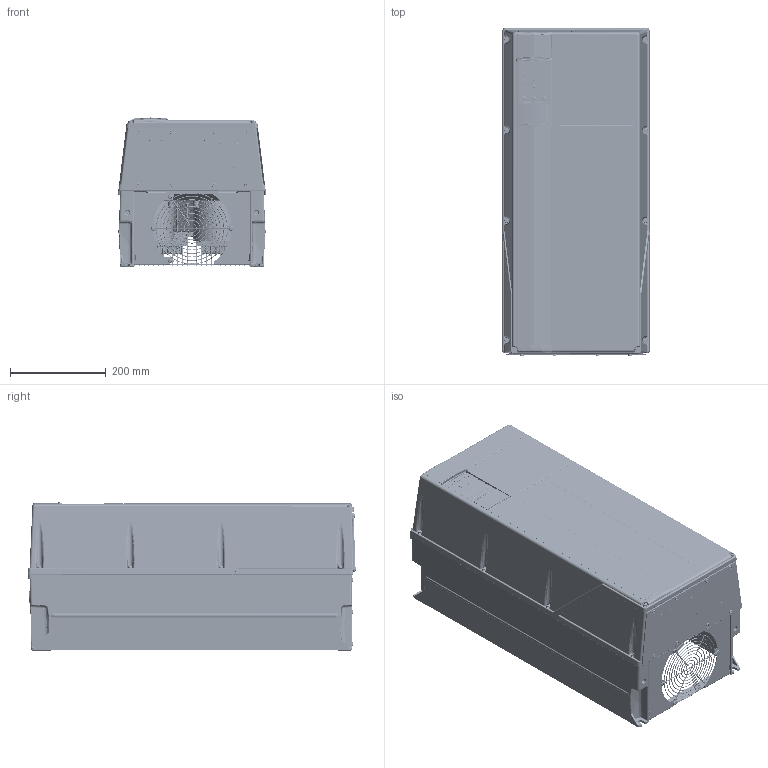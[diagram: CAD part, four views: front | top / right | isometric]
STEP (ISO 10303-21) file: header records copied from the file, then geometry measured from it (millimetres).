
FILE_DESCRIPTION (( 'STEP AP203' ), '1' );
FILE_NAME ('i7-ip54_0.STEP', '2016-01-18T14:45:50', ( '' ), ( '' ), 'SwSTEP 2.0', 'SolidWorks 2015', '' );
FILE_SCHEMA (( 'CONFIG_CONTROL_DESIGN' ));
Length unit declared in the file: millimetre
Products named in the file (1): i7-ip54_0
Bounding box: 307.5 x 685.07 x 310.6 mm (x, y, z)
Volume: 44646985.3 mm3; surface area: 3155812.2 mm2
Topology: 1 solids, 36 shells, 6434 faces, 16646 edges, 10234 vertices
Faces by surface type: cylinder 2404, plane 1799, bspline 1792, cone 407, torus 32
Entity records: 393886 total; most frequent: CARTESIAN_POINT 263656, ORIENTED_EDGE 32978, DIRECTION 18515, EDGE_CURVE 16489, VERTEX_POINT 10234, B_SPLINE_CURVE_WITH_KNOTS 8141, EDGE_LOOP 6681, AXIS2_PLACEMENT_3D 6569
